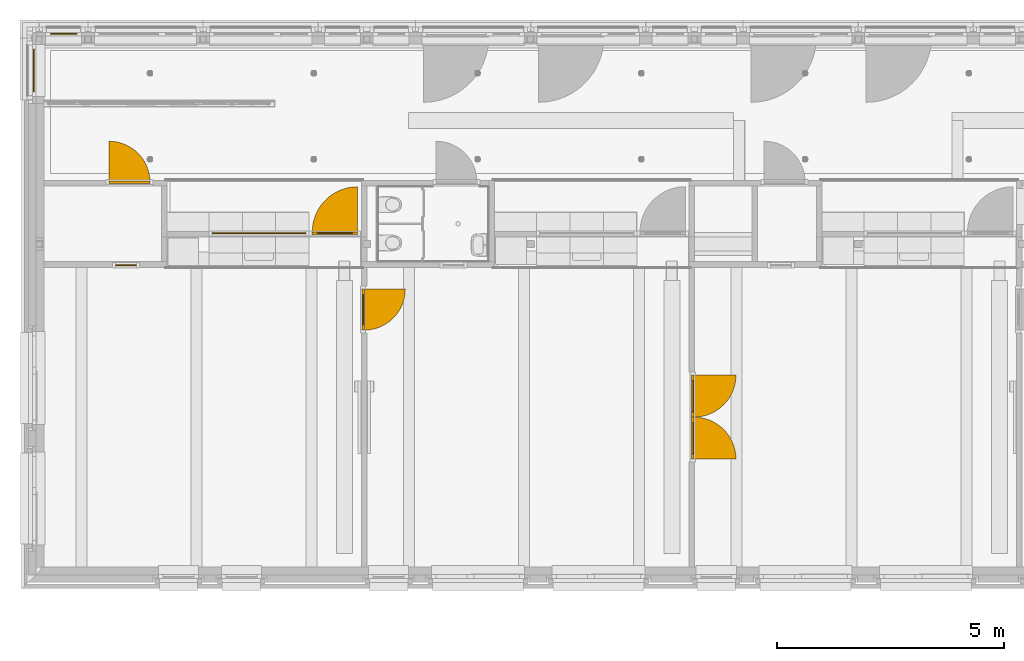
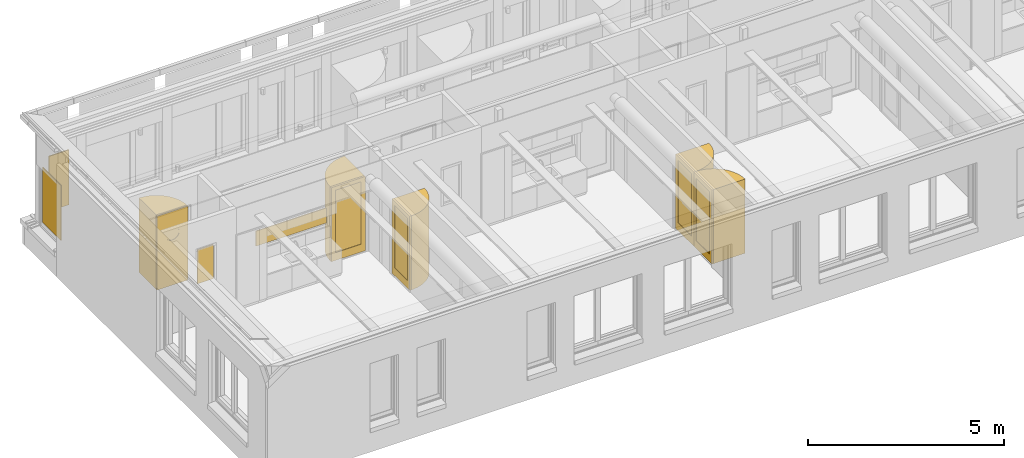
# One storey, part 67 of 128: 13 windows, 5 doors, 4 elements without a shape of their own.
"""IFC2X3 building model written with IfcOpenShell, lengths in millimetres."""

from ifc_helpers import new_model, entity, si_unit, converted_unit, derived_unit, direction, frame, frame_2d, origin, origin_2d_with_axis, place, context, subcontext, project, spatial, polyline, circle_curve, parameter, trimmed, segment, composite_curve, rectangle, circle, outline, extrude, source, transform, mapped, material, material_list, type_object, type_shapes, element, aggregate, save


model = new_model("IFC2X3")

# Units and contexts
model_context = context("Model", 3, precision=0.01, world=origin(), true_north=direction((6.123031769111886e-17, 1.0)))
body_context = subcontext(model_context, "Body", "Model", "MODEL_VIEW")
ifc_project = project(units=[si_unit("LENGTHUNIT", "METRE", prefix="MILLI"), si_unit("AREAUNIT", "SQUARE_METRE"), si_unit("VOLUMEUNIT", "CUBIC_METRE"), converted_unit("PLANEANGLEUNIT", "DEGREE", entity("IfcRatioMeasure", 0.017453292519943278), si_unit("PLANEANGLEUNIT", "RADIAN"), dimensions=[0, 0, 0, 0, 0, 0, 0]), si_unit("MASSUNIT", "GRAM", prefix="KILO"), derived_unit("MASSDENSITYUNIT", [(si_unit("MASSUNIT", "GRAM", prefix="KILO"), 1), (si_unit("LENGTHUNIT", "METRE"), -3)]), derived_unit("IONCONCENTRATIONUNIT", [(si_unit("MASSUNIT", "GRAM", prefix="KILO"), 1), (si_unit("LENGTHUNIT", "METRE"), -3)]), derived_unit("MOMENTOFINERTIAUNIT", [(si_unit("LENGTHUNIT", "METRE"), 4)]), si_unit("TIMEUNIT", "SECOND"), si_unit("FREQUENCYUNIT", "HERTZ"), si_unit("THERMODYNAMICTEMPERATUREUNIT", "DEGREE_CELSIUS"), derived_unit("THERMALTRANSMITTANCEUNIT", [(si_unit("MASSUNIT", "GRAM", prefix="KILO"), 1), (si_unit("THERMODYNAMICTEMPERATUREUNIT", "KELVIN"), -1), (si_unit("TIMEUNIT", "SECOND"), -3)]), derived_unit("THERMALCONDUCTANCEUNIT", [(si_unit("MASSUNIT", "GRAM", prefix="KILO"), 1), (si_unit("THERMODYNAMICTEMPERATUREUNIT", "KELVIN"), -1), (si_unit("TIMEUNIT", "SECOND"), -3), (si_unit("LENGTHUNIT", "METRE"), 1)]), derived_unit("VOLUMETRICFLOWRATEUNIT", [(si_unit("LENGTHUNIT", "METRE"), 3), (si_unit("TIMEUNIT", "SECOND"), -1)]), derived_unit("MASSFLOWRATEUNIT", [(si_unit("MASSUNIT", "GRAM", prefix="KILO"), 1), (si_unit("TIMEUNIT", "SECOND"), -1)]), derived_unit("ROTATIONALFREQUENCYUNIT", [(si_unit("TIMEUNIT", "SECOND"), -1)]), si_unit("ELECTRICCURRENTUNIT", "AMPERE"), si_unit("ELECTRICVOLTAGEUNIT", "VOLT"), si_unit("POWERUNIT", "WATT"), si_unit("FORCEUNIT", "NEWTON", prefix="KILO"), si_unit("ILLUMINANCEUNIT", "LUX"), si_unit("LUMINOUSFLUXUNIT", "LUMEN"), si_unit("LUMINOUSINTENSITYUNIT", "CANDELA"), derived_unit("USERDEFINED", [(si_unit("MASSUNIT", "GRAM", prefix="KILO"), -1), (si_unit("LENGTHUNIT", "METRE"), -2), (si_unit("TIMEUNIT", "SECOND"), 3), (si_unit("LUMINOUSFLUXUNIT", "LUMEN"), 1)]), derived_unit("USERDEFINED", [(si_unit("MASSUNIT", "GRAM", prefix="KILO"), 1), (si_unit("TIMEUNIT", "SECOND"), -3), (si_unit("LENGTHUNIT", "METRE"), 3), (si_unit("ELECTRICCURRENTUNIT", "AMPERE"), -2)]), derived_unit("SOUNDPOWERUNIT", [(si_unit("MASSUNIT", "GRAM", prefix="KILO"), 1), (si_unit("TIMEUNIT", "SECOND"), -3), (si_unit("LENGTHUNIT", "METRE"), 2)]), derived_unit("SOUNDPRESSUREUNIT", [(si_unit("MASSUNIT", "GRAM", prefix="KILO"), 1), (si_unit("LENGTHUNIT", "METRE"), -1), (si_unit("TIMEUNIT", "SECOND"), -2)]), derived_unit("LINEARVELOCITYUNIT", [(si_unit("LENGTHUNIT", "METRE"), 1), (si_unit("TIMEUNIT", "SECOND"), -1)]), si_unit("PRESSUREUNIT", "PASCAL"), derived_unit("USERDEFINED", [(si_unit("MASSUNIT", "GRAM", prefix="KILO"), 1), (si_unit("LENGTHUNIT", "METRE"), -2), (si_unit("TIMEUNIT", "SECOND"), -2)]), derived_unit("LINEARFORCEUNIT", [(si_unit("MASSUNIT", "GRAM", prefix="KILO"), 1), (si_unit("TIMEUNIT", "SECOND"), -2)]), derived_unit("PLANARFORCEUNIT", [(si_unit("MASSUNIT", "GRAM", prefix="KILO"), 1), (si_unit("LENGTHUNIT", "METRE"), -1), (si_unit("TIMEUNIT", "SECOND"), -2)]), derived_unit("SPECIFICHEATCAPACITYUNIT", [(si_unit("THERMODYNAMICTEMPERATUREUNIT", "KELVIN"), -1), (si_unit("LENGTHUNIT", "METRE"), 2), (si_unit("TIMEUNIT", "SECOND"), -2)]), derived_unit("HEATINGVALUEUNIT", [(si_unit("LENGTHUNIT", "METRE"), 2), (si_unit("TIMEUNIT", "SECOND"), -2)]), derived_unit("VAPORPERMEABILITYUNIT", [(si_unit("LENGTHUNIT", "METRE"), -1), (si_unit("TIMEUNIT", "SECOND"), 1)]), derived_unit("DYNAMICVISCOSITYUNIT", [(si_unit("MASSUNIT", "GRAM", prefix="KILO"), 1), (si_unit("TIMEUNIT", "SECOND"), -1), (si_unit("LENGTHUNIT", "METRE"), -1)]), derived_unit("THERMALEXPANSIONCOEFFICIENTUNIT", [(si_unit("THERMODYNAMICTEMPERATUREUNIT", "KELVIN"), -1)]), derived_unit("MODULUSOFELASTICITYUNIT", [(si_unit("MASSUNIT", "GRAM", prefix="KILO"), 1), (si_unit("LENGTHUNIT", "METRE"), -1), (si_unit("TIMEUNIT", "SECOND"), -2)]), derived_unit("ISOTHERMALMOISTURECAPACITYUNIT", [(si_unit("LENGTHUNIT", "METRE"), 3), (si_unit("MASSUNIT", "GRAM", prefix="KILO"), -1)]), derived_unit("MOISTUREDIFFUSIVITYUNIT", [(si_unit("TIMEUNIT", "SECOND"), -1), (si_unit("LENGTHUNIT", "METRE"), 2)])], contexts=[model_context])

# Site, building, storey
site_placement = place(None, frame((0.0, 300.0, 0.0)))
site = spatial("IfcSite", under=ifc_project, at=site_placement, Name="<Kadastrale nummers>", CompositionType="ELEMENT")
building_placement = place(site_placement, origin())
building = spatial("IfcBuilding", under=site, at=building_placement, CompositionType="ELEMENT")
storey_placement = place(building_placement, frame((0.0, 0.0, 3560.0000331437)))
storey = spatial("IfcBuildingStorey", under=building, at=storey_placement, Name="01 eerste verdieping", CompositionType="ELEMENT", Elevation=3560.0000331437)

# Windows
ifc_material_1 = material(Name="Clearance Zones")
window_style_1 = type_object("IfcWindowStyle", Name="BU deur links:BU deur links", ConstructionType="NOTDEFINED", OperationType="NOTDEFINED", ParameterTakesPrecedence=False, Sizeable=False, material=ifc_material_1)
shared_shape_1 = source(origin(), body_context, "Body", "SweptSolid", [
    extrude(outline(composite_curve([segment(trimmed(circle_curve(frame_2d((300.0, 300.0), x_axis=(1.0, 0.0)), 900.0000000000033), [parameter(180.00000000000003)], [parameter(269.9999999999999)], True, "PARAMETER"), True, "CONTINUOUS"), segment(polyline([(300.0, -600.0), (300.0, 300.0)]), True, "CONTINUOUS"), segment(polyline([(300.0, 300.0), (-600.0, 300.0)]), True, "CONTINUOUS")], self_intersect=False)), frame((-150.0, 327.0, -20.0), z_axis=(0.0, 0.0, 1.0), x_axis=(-1.0, 0.0, 0.0)), (0.0, 0.0, 1.0), 2303.0000000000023),
])
type_shapes(window_style_1, [shared_shape_1])
window_1_placement = place(storey_placement, frame((4983.0, 46633.25000000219, 130.00000187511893)))
element("IfcWindow", 1, at=window_1_placement, inside=storey, type_object=window_style_1, material=ifc_material_1, Name="BU deur links:BU deur links", ObjectType="BU deur links:BU deur links", OverallHeight=1184.0000000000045, OverallWidth=900.0000000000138, context=body_context, shape_type="MappedRepresentation", body=[
    mapped(shared_shape_1, transform((0.0, 0.0, 0.0), scale=1.0)),
])
window_2_placement = place(storey_placement, frame((10117.0, 43858.0, 130.00000187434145), z_axis=(0.0, 0.0, 1.0), x_axis=(0.0, -1.0, 0.0)))
element("IfcWindow", 2, at=window_2_placement, inside=storey, type_object=window_style_1, material=ifc_material_1, Name="BU deur links:BU deur links", ObjectType="BU deur links:BU deur links", OverallHeight=1184.0000000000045, OverallWidth=900.0000000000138, context=body_context, shape_type="MappedRepresentation", body=[
    mapped(shared_shape_1, transform((0.0, 0.0, 0.0), scale=1.0)),
])

# Curtain wall, doors
curtain_wall_type_1 = type_object("IfcCurtainWallType", Name="Curtain Wall:Merk H07", PredefinedType="NOTDEFINED")
curtain_wall_1_placement = place(storey_placement, frame((0.0, 0.0, -3560.0000331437)))
curtain_wall_1 = element("IfcCurtainWall", 3, at=curtain_wall_1_placement, inside=storey, type_object=curtain_wall_type_1, Name="Curtain Wall:Merk H07", ObjectType="Curtain Wall:Merk H07")
ifc_material_2 = material(Name="HPL F7853 ocean gray")
door_style_1 = type_object("IfcDoorStyle", Name="31_DO_deur_met_stapeldorpel:deur_met_stapeldorpel", ConstructionType="NOTDEFINED", OperationType="NOTDEFINED", ParameterTakesPrecedence=False, Sizeable=False, material=ifc_material_2)
shared_shape_2 = source(origin(), body_context, "Body", "SweptSolid", [
    extrude(outline(polyline([(-461.4999999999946, -1151.4999999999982), (461.4999999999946, -1151.4999999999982), (461.4999999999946, 1151.4999999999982), (-461.4999999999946, 1151.4999999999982), (-461.4999999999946, -1151.4999999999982)]), holes=[polyline([(-341.4999999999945, 911.499999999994), (341.4999999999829, 911.4999999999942), (341.499999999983, -1031.4999999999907), (-341.4999999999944, -1031.499999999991), (-341.4999999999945, 911.499999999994)])]), frame((0.0, 84.0, 1151.5000000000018), z_axis=(0.0, -1.0, 0.0), x_axis=(-1.0, 0.0, 0.0)), (0.0, 0.0, 1.0), 26.999999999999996),
    extrude(outline(polyline([(-461.4999999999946, -1151.4999999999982), (461.4999999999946, -1151.4999999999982), (461.4999999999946, 1151.4999999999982), (-461.4999999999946, 1151.4999999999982), (-461.4999999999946, -1151.4999999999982)]), holes=[polyline([(-341.49999999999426, 911.4999999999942), (341.49999999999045, 911.4999999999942), (341.49999999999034, -1031.4999999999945), (-341.4999999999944, -1031.4999999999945), (-341.49999999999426, 911.4999999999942)])]), frame((0.0, 57.0, 1151.5000000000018), z_axis=(0.0, -1.0, 0.0), x_axis=(-1.0, 0.0, 0.0)), (0.0, 0.0, 1.0), 26.99999999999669),
])
type_shapes(door_style_1, [shared_shape_2])
door_1_placement = place(curtain_wall_1_placement, frame((17306.0, 41033.49999999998, 3670.0000350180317), z_axis=(0.0, 0.0, 1.0), x_axis=(0.0, -1.0, 0.0)))
door_1 = element("IfcDoor", 4, at=door_1_placement, type_object=door_style_1, material=ifc_material_2, Name="31_DO_deur_met_stapeldorpel:deur_met_stapeldorpel", ObjectType="31_DO_deur_met_stapeldorpel:deur_met_stapeldorpel", OverallHeight=2303.0000000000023, OverallWidth=923.0000000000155, context=body_context, shape_type="MappedRepresentation", body=[
    mapped(shared_shape_2, transform((0.0, 0.0, 0.0), scale=1.0)),
])
door_style_2 = type_object("IfcDoorStyle", Name="31_DO_deur_met_stapeldorpel:deur_met_stapeldorpel", ConstructionType="NOTDEFINED", OperationType="NOTDEFINED", ParameterTakesPrecedence=False, Sizeable=False, material=ifc_material_2)
shared_shape_3 = source(origin(), body_context, "Body", "SweptSolid", [
    extrude(outline(polyline([(-461.49999999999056, -1151.499999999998), (461.4999999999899, -1151.499999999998), (461.49999999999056, 1151.499999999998), (-461.4999999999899, 1151.4999999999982), (-461.49999999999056, -1151.499999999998)]), holes=[polyline([(-341.4999999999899, 911.4999999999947), (341.4999999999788, 911.4999999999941), (341.4999999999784, -1031.4999999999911), (-341.49999999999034, -1031.499999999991), (-341.4999999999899, 911.4999999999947)])]), frame((0.0, 84.0, 1151.5000000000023), z_axis=(0.0, -1.0, 0.0), x_axis=(-1.0, 0.0, 0.0)), (0.0, 0.0, 1.0), 26.999999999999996),
    extrude(outline(polyline([(-461.49999999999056, -1151.499999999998), (461.4999999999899, -1151.499999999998), (461.49999999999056, 1151.499999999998), (-461.4999999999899, 1151.4999999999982), (-461.49999999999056, -1151.499999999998)]), holes=[polyline([(-341.49999999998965, 911.4999999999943), (341.4999999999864, 911.4999999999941), (341.49999999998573, -1031.4999999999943), (-341.49999999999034, -1031.4999999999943), (-341.49999999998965, 911.4999999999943)])]), frame((0.0, 57.0, 1151.5000000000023), z_axis=(0.0, -1.0, 0.0), x_axis=(-1.0, 0.0, 0.0)), (0.0, 0.0, 1.0), 26.99999999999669),
])
type_shapes(door_style_2, [shared_shape_3])
door_2_placement = place(curtain_wall_1_placement, frame((17306.0, 41956.49999999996, 3670.0000350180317), z_axis=(0.0, 0.0, 1.0), x_axis=(0.0, -1.0, 0.0)))
door_2 = element("IfcDoor", 5, at=door_2_placement, type_object=door_style_2, material=ifc_material_2, Name="31_DO_deur_met_stapeldorpel:deur_met_stapeldorpel", ObjectType="31_DO_deur_met_stapeldorpel:deur_met_stapeldorpel", OverallHeight=2303.000000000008, OverallWidth=923.000000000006, context=body_context, shape_type="MappedRepresentation", body=[
    mapped(shared_shape_3, transform((0.0, 0.0, 0.0), scale=1.0)),
])
aggregate(curtain_wall_1, [door_1, door_2])

# Curtain wall, door
curtain_wall_type_2 = type_object("IfcCurtainWallType", Name="Curtain Wall:Merk H09", PredefinedType="NOTDEFINED")
curtain_wall_2_placement = place(storey_placement, frame((0.0, 0.0, -3560.0000331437)))
curtain_wall_2 = element("IfcCurtainWall", 6, at=curtain_wall_2_placement, inside=storey, type_object=curtain_wall_type_2, Name="Curtain Wall:Merk H09", ObjectType="Curtain Wall:Merk H09")
ifc_material_3 = material(Name="ISR_HPL Kleur hout")
door_style_3 = type_object("IfcDoorStyle", Name="31_DO_deur_met_stapeldorpel:deur_met_stapeldorpel", ConstructionType="NOTDEFINED", OperationType="NOTDEFINED", ParameterTakesPrecedence=False, Sizeable=False, material=ifc_material_3)
shared_shape_4 = source(origin(), body_context, "Body", "SweptSolid", [
    extrude(outline(polyline([(-500.0, -1151.4999999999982), (500.0, -1151.4999999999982), (500.0, 1151.4999999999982), (-500.0, 1151.4999999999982), (-500.0, -1151.4999999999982)]), holes=[polyline([(-380.0, 911.499999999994), (380.0, 911.4999999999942), (380.0, -1031.4999999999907), (-380.0, -1031.499999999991), (-380.0, 911.499999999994)])]), frame((0.0, 57.0, 1151.5000000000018), z_axis=(0.0, 1.0, 0.0), x_axis=(1.0, 0.0, 0.0)), (0.0, 0.0, 1.0), 26.999999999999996),
    extrude(outline(polyline([(-500.0, -1151.4999999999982), (500.0, -1151.4999999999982), (500.0, 1151.4999999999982), (-500.0, 1151.4999999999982), (-500.0, -1151.4999999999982)]), holes=[polyline([(-380.0, 911.4999999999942), (380.0, 911.4999999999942), (380.0, -1031.4999999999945), (-380.0, -1031.4999999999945), (-380.0, 911.4999999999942)])]), frame((0.0, 30.0, 1151.5000000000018), z_axis=(0.0, 1.0, 0.0), x_axis=(1.0, 0.0, 0.0)), (0.0, 0.0, 1.0), 26.99999999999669),
])
type_shapes(door_style_3, [shared_shape_4])
door_3_placement = place(curtain_wall_2_placement, frame((9498.0, 45476.0, 3670.0000350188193)))
door_3 = element("IfcDoor", 7, at=door_3_placement, type_object=door_style_3, material=ifc_material_3, Name="31_DO_deur_met_stapeldorpel:deur_met_stapeldorpel", ObjectType="31_DO_deur_met_stapeldorpel:deur_met_stapeldorpel", OverallHeight=2303.0000000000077, OverallWidth=1000.0000000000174, context=body_context, shape_type="MappedRepresentation", body=[
    mapped(shared_shape_4, transform((0.0, 0.0, 0.0), scale=1.0)),
])
aggregate(curtain_wall_2, [door_3])

# Window
ifc_material_4 = material(Name="glas_enscape")
window_style_2 = type_object("IfcWindowStyle", Name="WI_subvak1:glas 2", ConstructionType="NOTDEFINED", OperationType="NOTDEFINED", ParameterTakesPrecedence=False, Sizeable=False, material=ifc_material_4)
shared_shape_5 = source(origin(), body_context, "Body", "SweptSolid", [
    extrude(rectangle(XDim=660.0000000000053, YDim=24.00000000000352, at=origin_2d_with_axis()), origin(), (0.0, 0.0, 1.0), 1942.999999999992),
])
type_shapes(window_style_2, [shared_shape_5])
window_3_placement = place(storey_placement, frame((10117.0, 43858.0, 350.00000187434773), z_axis=(0.0, 0.0, 1.0), x_axis=(0.0, 1.0, 0.0)))
element("IfcWindow", 8, at=window_3_placement, inside=storey, type_object=window_style_2, material=ifc_material_4, Name="WI_subvak1:glas 2", ObjectType="WI_subvak1:glas 2", OverallHeight=609.9286498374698, OverallWidth=660.0000000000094, context=body_context, shape_type="MappedRepresentation", body=[
    mapped(shared_shape_5, transform((0.0, 0.0, 0.0), scale=1.0)),
])

# Curtain wall, door
curtain_wall_type_3 = type_object("IfcCurtainWallType", Name="Curtain Wall:Merk H01", PredefinedType="NOTDEFINED")
curtain_wall_3_placement = place(storey_placement, frame((0.0, 0.0, -3560.0000331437)))
curtain_wall_3 = element("IfcCurtainWall", 9, at=curtain_wall_3_placement, inside=storey, type_object=curtain_wall_type_3, Name="Curtain Wall:Merk H01", ObjectType="Curtain Wall:Merk H01")
ifc_material_5 = material(Name="ISR_Kunststof_wit")
ifc_material_6 = material(Name="ISR_Mass_Glazing")
ifc_material_list = material_list([ifc_material_5, ifc_material_6])
door_style_4 = type_object("IfcDoorStyle", Name="31_DO_Rondgat_deur:dichte_deur", ConstructionType="NOTDEFINED", OperationType="NOTDEFINED", ParameterTakesPrecedence=False, Sizeable=False, material=ifc_material_list)
shared_shape_6 = source(origin(), body_context, "Body", "SweptSolid", [
    extrude(outline(polyline([(-450.0, -1151.5000000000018), (450.0, -1151.5000000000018), (450.0, 1151.4999999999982), (-450.0, 1151.5000000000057), (-450.0, -1151.5000000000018)]), holes=[composite_curve([segment(trimmed(circle_curve(frame_2d((0.0, -448.5000000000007), x_axis=(1.0, 0.0)), 200.0), [parameter(4.0711099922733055e-13)], [parameter(179.99999999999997)], True, "PARAMETER"), False, "CONTINUOUS"), segment(trimmed(circle_curve(frame_2d((0.0, -448.5000000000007), x_axis=(1.0, 0.0)), 200.0), [parameter(179.99999999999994)], [parameter(359.9999999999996)], True, "PARAMETER"), False, "CONTINUOUS")], self_intersect=False)]), frame((0.0, 57.0, 1151.5000000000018), z_axis=(0.0, -1.0, 0.0), x_axis=(-1.0, 0.0, 0.0)), (0.0, 0.0, 1.0), 26.999999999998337),
    extrude(outline(polyline([(-450.0, -1151.500000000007), (450.0, -1151.500000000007), (450.0, 1151.499999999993), (-450.0, 1151.5000000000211), (-450.0, -1151.500000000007)]), holes=[composite_curve([segment(trimmed(circle_curve(frame_2d((0.0, -448.49999999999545), x_axis=(1.0, 0.0)), 200.0), [parameter(4.0711099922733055e-13)], [parameter(179.99999999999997)], True, "PARAMETER"), False, "CONTINUOUS"), segment(trimmed(circle_curve(frame_2d((0.0, -448.49999999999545), x_axis=(1.0, 0.0)), 200.0), [parameter(179.99999999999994)], [parameter(359.9999999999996)], True, "PARAMETER"), False, "CONTINUOUS")], self_intersect=False)]), frame((0.0, 84.0, 1151.500000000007), z_axis=(0.0, -1.0, 0.0), x_axis=(-1.0, 0.0, 0.0)), (0.0, 0.0, 1.0), 26.999999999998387),
    extrude(circle(Radius=200.0, at=frame_2d((0.0, -2.707167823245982e-13), x_axis=(1.0, 0.0))), frame((0.0, 66.449031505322, 1600.0), z_axis=(0.0, -1.0, 0.0), x_axis=(1.0, 0.0, 0.0)), (0.0, 0.0, 1.0), 25.1297239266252),
])
type_shapes(door_style_4, [shared_shape_6])
door_4_placement = place(curtain_wall_3_placement, frame((4983.0, 46606.0, 3670.00003501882)))
door_4 = element("IfcDoor", 10, at=door_4_placement, type_object=door_style_4, material=ifc_material_list, Name="31_DO_Rondgat_deur:dichte_deur", ObjectType="31_DO_Rondgat_deur:dichte_deur", OverallHeight=2303.000000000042, OverallWidth=900.0000000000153, context=body_context, shape_type="MappedRepresentation", body=[
    mapped(shared_shape_6, transform((0.0, 0.0, 0.0), scale=1.0)),
])
aggregate(curtain_wall_3, [door_4])

# Windows
window_style_3 = type_object("IfcWindowStyle", Name="WI_subvak1:glas 4", ConstructionType="NOTDEFINED", OperationType="NOTDEFINED", ParameterTakesPrecedence=False, Sizeable=False, material=ifc_material_4)
shared_shape_7 = source(origin(), body_context, "Body", "SweptSolid", [
    extrude(rectangle(XDim=24.000000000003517, YDim=466.0000000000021, at=origin_2d_with_axis()), frame((0.0, 0.0, 0.0), z_axis=(0.0, 0.0, 1.0), x_axis=(0.0, -1.0, 0.0)), (0.0, 0.0, 1.0), 1055.9999999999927),
])
type_shapes(window_style_3, [shared_shape_7])
window_4_placement = place(storey_placement, frame((4905.0, 44832.0, 1357.0), z_axis=(0.0, 0.0, 1.0), x_axis=(-1.0, 0.0, 0.0)))
element("IfcWindow", 11, at=window_4_placement, inside=storey, type_object=window_style_3, material=ifc_material_4, Name="WI_subvak1:glas 4", ObjectType="WI_subvak1:glas 4", OverallHeight=609.9286498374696, OverallWidth=466.00000000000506, context=body_context, shape_type="MappedRepresentation", body=[
    mapped(shared_shape_7, transform((0.0, 0.0, 0.0), scale=1.0)),
])
window_style_4 = type_object("IfcWindowStyle", Name="WI_subvak1:glas 4", ConstructionType="NOTDEFINED", OperationType="NOTDEFINED", ParameterTakesPrecedence=False, Sizeable=False, material=ifc_material_4)
shared_shape_8 = source(origin(), body_context, "Body", "SweptSolid", [
    extrude(rectangle(XDim=24.000000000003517, YDim=2071.0000000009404, at=frame_2d((0.0, 1.1368683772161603e-13), x_axis=(1.0, 0.0))), frame((0.0, 0.0, 0.0), z_axis=(0.0, 0.0, 1.0), x_axis=(0.0, -1.0, 0.0)), (0.0, 0.0, 1.0), 465.9999999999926),
])
type_shapes(window_style_4, [shared_shape_8])
window_5_placement = place(storey_placement, frame((7828.50000000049, 45533.0, 1357.0)))
element("IfcWindow", 12, at=window_5_placement, inside=storey, type_object=window_style_4, material=ifc_material_4, Name="WI_subvak1:glas 4", ObjectType="WI_subvak1:glas 4", OverallHeight=609.9286498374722, OverallWidth=2071.0000000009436, context=body_context, shape_type="MappedRepresentation", body=[
    mapped(shared_shape_8, transform((0.0, 0.0, 0.0), scale=1.0)),
])
window_style_5 = type_object("IfcWindowStyle", Name="WI_subvak1:glas 2", ConstructionType="NOTDEFINED", OperationType="NOTDEFINED", ParameterTakesPrecedence=False, Sizeable=False, material=ifc_material_4)
shared_shape_9 = source(origin(), body_context, "Body", "SweptSolid", [
    extrude(rectangle(XDim=24.000000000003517, YDim=759.9999999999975, at=frame_2d((0.0, -2.842170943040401e-14), x_axis=(1.0, 0.0))), frame((0.0, 0.0, 0.0), z_axis=(0.0, 0.0, 1.0), x_axis=(0.0, -1.0, 0.0)), (0.0, 0.0, 1.0), 1942.999999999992),
])
type_shapes(window_style_5, [shared_shape_9])
window_6_placement = place(storey_placement, frame((9498.0, 45533.0, 350.00000187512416)))
element("IfcWindow", 13, at=window_6_placement, inside=storey, type_object=window_style_5, material=ifc_material_4, Name="WI_subvak1:glas 2", ObjectType="WI_subvak1:glas 2", OverallHeight=609.9286498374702, OverallWidth=760.0000000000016, context=body_context, shape_type="MappedRepresentation", body=[
    mapped(shared_shape_9, transform((0.0, 0.0, 0.0), scale=1.0)),
])
window_style_6 = type_object("IfcWindowStyle", Name="BU deur links:BU deur links", ConstructionType="NOTDEFINED", OperationType="NOTDEFINED", ParameterTakesPrecedence=False, Sizeable=False, material=ifc_material_1)
shared_shape_10 = source(origin(), body_context, "Body", "SweptSolid", [
    extrude(outline(composite_curve([segment(polyline([(-666.6666666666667, -333.33333333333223), (333.3333333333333, -333.33333333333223)]), True, "CONTINUOUS"), segment(polyline([(333.3333333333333, -333.33333333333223), (333.33333333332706, 666.6666666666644)]), True, "CONTINUOUS"), segment(trimmed(circle_curve(frame_2d((333.3333333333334, -333.33333333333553), x_axis=(1.0, 0.0)), 1000.0000000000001), [parameter(90.00000000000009)], [parameter(179.99999999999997)], True, "PARAMETER"), True, "CONTINUOUS")], self_intersect=False)), frame((-166.66666666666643, -360.3333333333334, -20.0), z_axis=(0.0, 0.0, 1.0), x_axis=(-1.0, 0.0, 0.0)), (0.0, 0.0, 1.0), 2303.0000000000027),
])
type_shapes(window_style_6, [shared_shape_10])
window_7_placement = place(storey_placement, frame((9498.0, 45533.0, 130.00000187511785), z_axis=(0.0, 0.0, 1.0), x_axis=(-1.0, 0.0, 0.0)))
element("IfcWindow", 14, at=window_7_placement, inside=storey, type_object=window_style_6, material=ifc_material_1, Name="BU deur links:BU deur links", ObjectType="BU deur links:BU deur links", OverallHeight=1284.0000000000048, OverallWidth=1000.0000000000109, context=body_context, shape_type="MappedRepresentation", body=[
    mapped(shared_shape_10, transform((0.0, 0.0, 0.0), scale=1.0)),
])
window_style_7 = type_object("IfcWindowStyle", Name="WI_subvak1:glas 2", ConstructionType="NOTDEFINED", OperationType="NOTDEFINED", ParameterTakesPrecedence=False, Sizeable=False, material=ifc_material_4)
shared_shape_11 = source(origin(), body_context, "Body", "SweptSolid", [
    extrude(rectangle(XDim=683.000000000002, YDim=24.000000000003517, at=frame_2d((0.0, -8.881784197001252e-16), x_axis=(1.0, 0.0))), origin(), (0.0, 0.0, 1.0), 1942.999999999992),
])
type_shapes(window_style_7, [shared_shape_11])
for number, where, z_axis, x_axis, name in (
    (15, (17363.0, 41033.49999999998, 350.00000187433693), (0.0, 0.0, 1.0), (0.0, 1.0, 0.0), "WI_subvak1:glas 2"),
    (16, (17363.0, 41956.49999999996, 350.00000187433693), (0.0, 0.0, 1.0), (0.0, 1.0, 0.0), "WI_subvak1:glas 2"),
):
    element("IfcWindow", number, at=place(storey_placement, frame(where, z_axis=z_axis, x_axis=x_axis)), inside=storey, type_object=window_style_7, material=ifc_material_4, Name=name, ObjectType="WI_subvak1:glas 2", OverallHeight=609.9286498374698, OverallWidth=683.000000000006, context=body_context, shape_type="MappedRepresentation", body=[
        mapped(shared_shape_11, transform((0.0, 0.0, 0.0), scale=1.0)),
    ])
window_style_8 = type_object("IfcWindowStyle", Name="BU deur rechts:BU deur rechts", ConstructionType="NOTDEFINED", OperationType="NOTDEFINED", ParameterTakesPrecedence=False, Sizeable=False, material=ifc_material_1)
shared_shape_12 = source(origin(), body_context, "Body", "SweptSolid", [
    extrude(outline(composite_curve([segment(polyline([(-615.3333333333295, -307.66666666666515), (307.66666666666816, -307.6666666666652)]), True, "CONTINUOUS"), segment(polyline([(307.66666666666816, -307.6666666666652), (307.6666666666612, 615.3333333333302)]), True, "CONTINUOUS"), segment(trimmed(circle_curve(frame_2d((307.6666666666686, -307.66666666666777), x_axis=(1.0, 0.0)), 922.9999999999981), [parameter(90.00000000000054)], [parameter(180.0)], True, "PARAMETER"), True, "CONTINUOUS")], self_intersect=False)), frame((153.83333333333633, 334.66666666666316, 0.0)), (0.0, 0.0, 1.0), 2302.999999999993),
])
type_shapes(window_style_8, [shared_shape_12])
window_8_placement = place(storey_placement, frame((17363.0, 41033.499999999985, 110.00000187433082), z_axis=(0.0, 0.0, 1.0), x_axis=(0.0, -1.0, 0.0)))
element("IfcWindow", 17, at=window_8_placement, inside=storey, type_object=window_style_8, material=ifc_material_1, Name="BU deur rechts:BU deur rechts", ObjectType="BU deur rechts:BU deur rechts", OverallHeight=1207.0000000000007, OverallWidth=923.0000000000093, context=body_context, shape_type="MappedRepresentation", body=[
    mapped(shared_shape_12, transform((0.0, 0.0, 0.0), scale=1.0)),
])
window_style_9 = type_object("IfcWindowStyle", Name="BU deur links:BU deur links", ConstructionType="NOTDEFINED", OperationType="NOTDEFINED", ParameterTakesPrecedence=False, Sizeable=False, material=ifc_material_1)
shared_shape_13 = source(origin(), body_context, "Body", "SweptSolid", [
    extrude(outline(composite_curve([segment(trimmed(circle_curve(frame_2d((307.6666666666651, 307.6666666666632), x_axis=(1.0, 0.0)), 922.9999999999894), [parameter(180.00000000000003)], [parameter(269.9999999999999)], True, "PARAMETER"), True, "CONTINUOUS"), segment(polyline([(307.66666666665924, -615.3333333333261), (307.66666666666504, 307.6666666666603)]), True, "CONTINUOUS"), segment(polyline([(307.66666666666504, 307.6666666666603), (-615.3333333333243, 307.6666666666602)]), True, "CONTINUOUS")], self_intersect=False)), frame((-153.83333333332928, 334.6666666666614, -20.0), z_axis=(0.0, 0.0, 1.0), x_axis=(-1.0, 0.0, 0.0)), (0.0, 0.0, 1.0), 2303.000000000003),
])
type_shapes(window_style_9, [shared_shape_13])
window_9_placement = place(storey_placement, frame((17363.0, 41956.49999999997, 130.00000187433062), z_axis=(0.0, 0.0, 1.0), x_axis=(0.0, -1.0, 0.0)))
element("IfcWindow", 18, at=window_9_placement, inside=storey, type_object=window_style_9, material=ifc_material_1, Name="BU deur links:BU deur links", ObjectType="BU deur links:BU deur links", OverallHeight=1206.9999999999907, OverallWidth=923.0, context=body_context, shape_type="MappedRepresentation", body=[
    mapped(shared_shape_13, transform((0.0, 0.0, 0.0), scale=1.0)),
])

# Curtain wall, door
curtain_wall_type_4 = type_object("IfcCurtainWallType", Name="Curtain Wall:Merk H16", PredefinedType="NOTDEFINED")
curtain_wall_4_placement = place(storey_placement, frame((0.0, 0.0, -3560.0000331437)))
curtain_wall_4 = element("IfcCurtainWall", 19, at=curtain_wall_4_placement, inside=storey, type_object=curtain_wall_type_4, Name="Curtain Wall:Merk H16", ObjectType="Curtain Wall:Merk H16")
door_style_5 = type_object("IfcDoorStyle", Name="31_DO_deur_met_stapeldorpel:deur_met_stapeldorpel", ConstructionType="NOTDEFINED", OperationType="NOTDEFINED", ParameterTakesPrecedence=False, Sizeable=False, material=ifc_material_2)
shared_shape_14 = source(origin(), body_context, "Body", "SweptSolid", [
    extrude(outline(polyline([(-450.0, -1151.4999999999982), (450.0, -1151.4999999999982), (450.0, 1151.4999999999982), (-450.0, 1151.4999999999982), (-450.0, -1151.4999999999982)]), holes=[polyline([(-330.0, 911.499999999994), (330.0, 911.4999999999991), (330.0, -1031.4999999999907), (-330.0, -1031.499999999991), (-330.0, 911.499999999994)])]), frame((0.0, 84.0, 1151.5000000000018), z_axis=(0.0, -1.0, 0.0), x_axis=(-1.0, 0.0, 0.0)), (0.0, 0.0, 1.0), 26.999999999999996),
    extrude(outline(polyline([(-450.0, -1151.4999999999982), (450.0, -1151.4999999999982), (450.0, 1151.4999999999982), (-450.0, 1151.4999999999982), (-450.0, -1151.4999999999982)]), holes=[polyline([(-330.0, 911.4999999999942), (330.0, 911.4999999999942), (330.0, -1031.4999999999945), (-330.0, -1031.4999999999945), (-330.0, 911.4999999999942)])]), frame((0.0, 57.0, 1151.5000000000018), z_axis=(0.0, -1.0, 0.0), x_axis=(-1.0, 0.0, 0.0)), (0.0, 0.0, 1.0), 26.99999999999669),
])
type_shapes(door_style_5, [shared_shape_14])
door_5_placement = place(curtain_wall_4_placement, frame((10060.0, 43858.0, 3670.0000350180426), z_axis=(0.0, 0.0, 1.0), x_axis=(0.0, -1.0, 0.0)))
door_5 = element("IfcDoor", 20, at=door_5_placement, type_object=door_style_5, material=ifc_material_2, Name="31_DO_deur_met_stapeldorpel:deur_met_stapeldorpel", ObjectType="31_DO_deur_met_stapeldorpel:deur_met_stapeldorpel", OverallHeight=2303.0000000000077, OverallWidth=900.0000000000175, context=body_context, shape_type="MappedRepresentation", body=[
    mapped(shared_shape_14, transform((0.0, 0.0, 0.0), scale=1.0)),
])
aggregate(curtain_wall_4, [door_5])

# Windows
window_style_10 = type_object("IfcWindowStyle", Name="WI_subvak1:glas 4", ConstructionType="NOTDEFINED", OperationType="NOTDEFINED", ParameterTakesPrecedence=False, Sizeable=False, material=ifc_material_4)
shared_shape_15 = source(origin(), body_context, "Body", "SweptSolid", [
    extrude(rectangle(XDim=24.00000000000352, YDim=944.9999999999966, at=origin_2d_with_axis()), frame((0.0, 0.0, 0.0), z_axis=(0.0, 0.0, 1.0), x_axis=(0.0, -1.0, 0.0)), (0.0, 0.0, 1.0), 1709.9999999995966),
])
type_shapes(window_style_10, [shared_shape_15])
window_10_placement = place(storey_placement, frame((2874.99862327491, 49117.500000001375, 1019.999966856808), z_axis=(0.0, 0.0, 1.0), x_axis=(0.0, 1.0, 0.0)))
element("IfcWindow", 21, at=window_10_placement, inside=storey, type_object=window_style_10, material=ifc_material_4, Name="WI_subvak1:glas 4", ObjectType="WI_subvak1:glas 4", OverallHeight=609.9286498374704, OverallWidth=945.0000000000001, context=body_context, shape_type="MappedRepresentation", body=[
    mapped(shared_shape_15, transform((0.0, 0.0, 0.0), scale=1.0)),
])
window_style_11 = type_object("IfcWindowStyle", Name="WI_subvak1:glas 4", ConstructionType="NOTDEFINED", OperationType="NOTDEFINED", ParameterTakesPrecedence=False, Sizeable=False, material=ifc_material_4)
shared_shape_16 = source(origin(), body_context, "Body", "SweptSolid", [
    extrude(rectangle(XDim=590.000000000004, YDim=24.00000000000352, at=frame_2d((0.0, -1.7763568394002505e-15), x_axis=(1.0, 0.0))), origin(), (0.0, 0.0, 1.0), 1709.9999649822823),
])
type_shapes(window_style_11, [shared_shape_16])
window_11_placement = place(storey_placement, frame((3535.0, 49925.0, 1020.0), z_axis=(0.0, 0.0, 1.0), x_axis=(-1.0, 0.0, 0.0)))
element("IfcWindow", 22, at=window_11_placement, inside=storey, type_object=window_style_11, material=ifc_material_4, Name="WI_subvak1:glas 4", ObjectType="WI_subvak1:glas 4", OverallHeight=609.9286498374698, OverallWidth=590.0000000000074, context=body_context, shape_type="MappedRepresentation", body=[
    mapped(shared_shape_16, transform((0.0, 0.0, 0.0), scale=1.0)),
])

save(model, "model.ifc")
